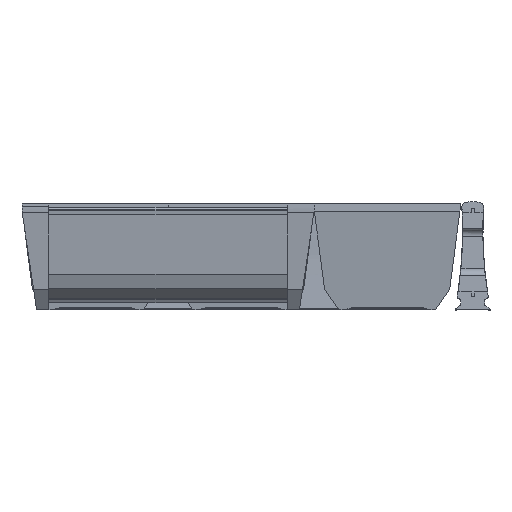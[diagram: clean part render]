
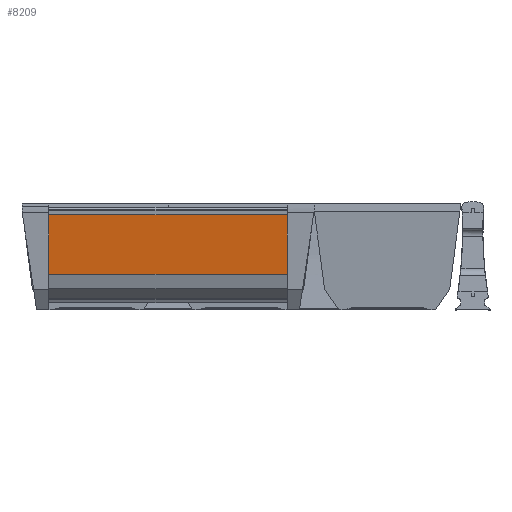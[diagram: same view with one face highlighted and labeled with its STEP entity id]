
A CAD part, front view. The second image highlights one B-rep face of the part: STEP entity #8209.
In plain terms, the highlighted planar face has unit normal (0, -0.991, -0.131).
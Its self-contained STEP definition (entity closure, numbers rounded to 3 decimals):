
#5573 = VERTEX_POINT ( 'NONE', #6612 ) ;
#5725 = VERTEX_POINT ( 'NONE', #6095 ) ;
#5782 = VERTEX_POINT ( 'NONE', #6064 ) ;
#5897 = CARTESIAN_POINT ( 'NONE',  ( 16.5, 2.926, 61.998 ) ) ;
#6064 = CARTESIAN_POINT ( 'NONE',  ( 164.5, 8.199, 21.942 ) ) ;
#6095 = CARTESIAN_POINT ( 'NONE',  ( 164.5, 2.926, 61.998 ) ) ;
#6491 = VERTEX_POINT ( 'NONE', #5897 ) ;
#6612 = CARTESIAN_POINT ( 'NONE',  ( 16.5, 8.199, 21.942 ) ) ;
#8209 = ADVANCED_FACE ( 'NONE', ( #19749 ), #18478, .F. ) ;
#13484 = LINE ( 'NONE', #23593, #13501 ) ;
#13501 = VECTOR ( 'NONE', #23601, 1000. ) ;
#13523 = LINE ( 'NONE', #23634, #13525 ) ;
#13524 = LINE ( 'NONE', #23638, #13527 ) ;
#13525 = VECTOR ( 'NONE', #23635, 1000. ) ;
#13527 = VECTOR ( 'NONE', #23639, 1000. ) ;
#14946 = EDGE_CURVE ( 'NONE', #5725, #6491, #17885, .T. ) ;
#17879 = VECTOR ( 'NONE', #31829, 1000. ) ;
#17885 = LINE ( 'NONE', #31816, #17879 ) ;
#18477 = CARTESIAN_POINT ( 'NONE',  ( 170., 8.199, 21.942 ) ) ;
#18478 = PLANE ( 'NONE',  #22209 ) ;
#18487 = DIRECTION ( 'NONE',  ( 0., 0.991, 0.131 ) ) ;
#18488 = DIRECTION ( 'NONE',  ( 0., -0.131, 0.991 ) ) ;
#19294 = EDGE_LOOP ( 'NONE', ( #28701, #28700, #28699, #28698 ) ) ;
#19749 = FACE_OUTER_BOUND ( 'NONE', #19294, .T. ) ;
#22209 = AXIS2_PLACEMENT_3D ( 'NONE', #18477, #18487, #18488 ) ;
#23593 = CARTESIAN_POINT ( 'NONE',  ( 170., 8.199, 21.942 ) ) ;
#23601 = DIRECTION ( 'NONE',  ( -1., 0., 0. ) ) ;
#23634 = CARTESIAN_POINT ( 'NONE',  ( 16.5, 8.199, 21.942 ) ) ;
#23635 = DIRECTION ( 'NONE',  ( 0., -0.131, 0.991 ) ) ;
#23638 = CARTESIAN_POINT ( 'NONE',  ( 164.5, 8.199, 21.942 ) ) ;
#23639 = DIRECTION ( 'NONE',  ( 0., 0.131, -0.991 ) ) ;
#28698 = ORIENTED_EDGE ( 'NONE', *, *, #30032, .F. ) ;
#28699 = ORIENTED_EDGE ( 'NONE', *, *, #30047, .F. ) ;
#28700 = ORIENTED_EDGE ( 'NONE', *, *, #14946, .T. ) ;
#28701 = ORIENTED_EDGE ( 'NONE', *, *, #30049, .F. ) ;
#30032 = EDGE_CURVE ( 'NONE', #5782, #5573, #13484, .T. ) ;
#30047 = EDGE_CURVE ( 'NONE', #5573, #6491, #13523, .T. ) ;
#30049 = EDGE_CURVE ( 'NONE', #5725, #5782, #13524, .T. ) ;
#31816 = CARTESIAN_POINT ( 'NONE',  ( 170., 2.926, 61.998 ) ) ;
#31829 = DIRECTION ( 'NONE',  ( -1., 0., 0. ) ) ;
